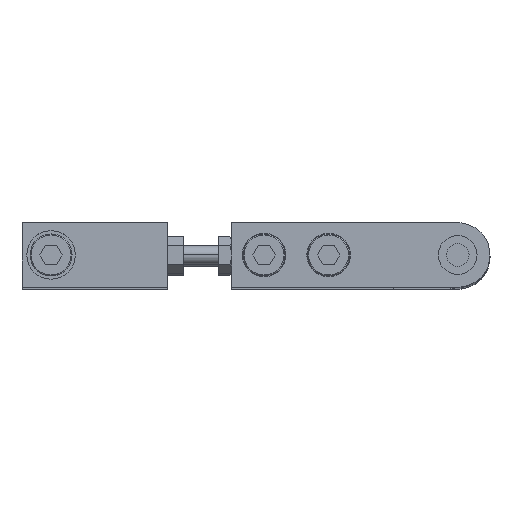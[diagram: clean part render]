
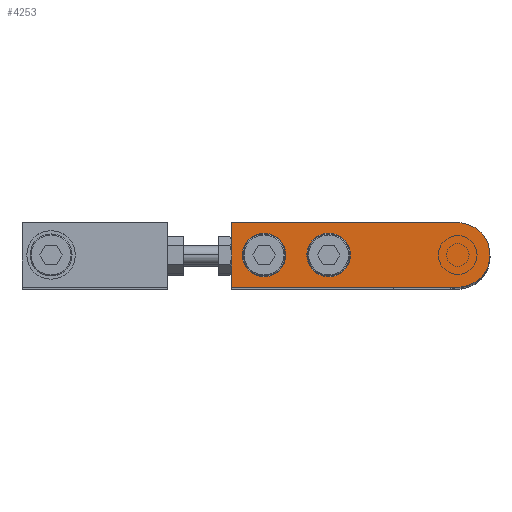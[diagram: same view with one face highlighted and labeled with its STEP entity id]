
A CAD part, top view. The second image highlights one B-rep face of the part: STEP entity #4253.
In plain terms, the highlighted planar face has unit normal (0, 0, 1) as drawn and (0, 0, -1) by its records, which use the part's own axes.
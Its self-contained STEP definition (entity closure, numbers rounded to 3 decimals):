
#34 = DIRECTION ( 'NONE',  ( 0., 0., 1. ) ) ;
#170 = DIRECTION ( 'NONE',  ( 1., 0., 0. ) ) ;
#330 = VECTOR ( 'NONE', #170, 1000. ) ;
#361 = DIRECTION ( 'NONE',  ( 0., 0., -1. ) ) ;
#541 = VECTOR ( 'NONE', #5131, 1000. ) ;
#567 = VERTEX_POINT ( 'NONE', #7004 ) ;
#640 = DIRECTION ( 'NONE',  ( 0., 0., 1. ) ) ;
#722 = EDGE_LOOP ( 'NONE', ( #6943, #4943 ) ) ;
#813 = ORIENTED_EDGE ( 'NONE', *, *, #3342, .F. ) ;
#832 = CARTESIAN_POINT ( 'NONE',  ( 40., 0., -5. ) ) ;
#990 = CARTESIAN_POINT ( 'NONE',  ( 0., -10., -5. ) ) ;
#1029 = CARTESIAN_POINT ( 'NONE',  ( 70., 10., -5. ) ) ;
#1130 = CIRCLE ( 'NONE', #6906, 10. ) ;
#1208 = VERTEX_POINT ( 'NONE', #5069 ) ;
#1219 = FACE_BOUND ( 'NONE', #722, .T. ) ;
#1282 = DIRECTION ( 'NONE',  ( -1., 0., 0. ) ) ;
#1334 = DIRECTION ( 'NONE',  ( -1., 0., 0. ) ) ;
#1505 = CARTESIAN_POINT ( 'NONE',  ( 60., 0., -5. ) ) ;
#1584 = PLANE ( 'NONE',  #7132 ) ;
#1634 = EDGE_CURVE ( 'NONE', #7013, #1208, #1825, .T. ) ;
#1638 = DIRECTION ( 'NONE',  ( 0., 0., 1. ) ) ;
#1663 = CARTESIAN_POINT ( 'NONE',  ( 0., 0., -5. ) ) ;
#1789 = EDGE_LOOP ( 'NONE', ( #5278, #5631 ) ) ;
#1794 = CARTESIAN_POINT ( 'NONE',  ( 0., 10., -5. ) ) ;
#1825 = CIRCLE ( 'NONE', #4776, 10. ) ;
#1906 = EDGE_CURVE ( 'NONE', #2358, #5867, #3691, .T. ) ;
#2057 = VECTOR ( 'NONE', #2916, 1000. ) ;
#2326 = CARTESIAN_POINT ( 'NONE',  ( 46.75, 0., -5. ) ) ;
#2358 = VERTEX_POINT ( 'NONE', #5509 ) ;
#2914 = CARTESIAN_POINT ( 'NONE',  ( 66.75, 0., -5. ) ) ;
#2916 = DIRECTION ( 'NONE',  ( -1., 0., 0. ) ) ;
#2994 = EDGE_CURVE ( 'NONE', #4558, #6716, #6827, .T. ) ;
#3070 = CARTESIAN_POINT ( 'NONE',  ( 0., -10., -5. ) ) ;
#3103 = DIRECTION ( 'NONE',  ( -1., 0., 0. ) ) ;
#3112 = DIRECTION ( 'NONE',  ( 0., 0., -1. ) ) ;
#3266 = AXIS2_PLACEMENT_3D ( 'NONE', #832, #3112, #1282 ) ;
#3342 = EDGE_CURVE ( 'NONE', #5867, #7013, #5733, .T. ) ;
#3411 = DIRECTION ( 'NONE',  ( 0., 0., -1. ) ) ;
#3512 = CARTESIAN_POINT ( 'NONE',  ( 0., 0., -5. ) ) ;
#3548 = DIRECTION ( 'NONE',  ( 1., 0., 0. ) ) ;
#3575 = CIRCLE ( 'NONE', #4566, 6.75 ) ;
#3654 = CARTESIAN_POINT ( 'NONE',  ( 53.25, 0., -5. ) ) ;
#3691 = LINE ( 'NONE', #1029, #541 ) ;
#3705 = ORIENTED_EDGE ( 'NONE', *, *, #4419, .F. ) ;
#3880 = CARTESIAN_POINT ( 'NONE',  ( 0., 10., -5. ) ) ;
#3934 = FACE_BOUND ( 'NONE', #1789, .T. ) ;
#4097 = DIRECTION ( 'NONE',  ( 1., 0., 0. ) ) ;
#4119 = LINE ( 'NONE', #3070, #330 ) ;
#4253 = ADVANCED_FACE ( 'NONE', ( #3934, #1219, #6168 ), #1584, .F. ) ;
#4419 = EDGE_CURVE ( 'NONE', #1208, #6313, #1130, .T. ) ;
#4490 = VERTEX_POINT ( 'NONE', #2326 ) ;
#4507 = CIRCLE ( 'NONE', #3266, 6.75 ) ;
#4558 = VERTEX_POINT ( 'NONE', #3654 ) ;
#4566 = AXIS2_PLACEMENT_3D ( 'NONE', #1505, #361, #5517 ) ;
#4732 = AXIS2_PLACEMENT_3D ( 'NONE', #6018, #4871, #3103 ) ;
#4775 = AXIS2_PLACEMENT_3D ( 'NONE', #6842, #3411, #1334 ) ;
#4776 = AXIS2_PLACEMENT_3D ( 'NONE', #5310, #640, #3548 ) ;
#4871 = DIRECTION ( 'NONE',  ( 0., 0., -1. ) ) ;
#4943 = ORIENTED_EDGE ( 'NONE', *, *, #5359, .F. ) ;
#5069 = CARTESIAN_POINT ( 'NONE',  ( -10., 0., -5. ) ) ;
#5131 = DIRECTION ( 'NONE',  ( 0., 1., 0. ) ) ;
#5278 = ORIENTED_EDGE ( 'NONE', *, *, #2994, .F. ) ;
#5310 = CARTESIAN_POINT ( 'NONE',  ( 0., 0., -5. ) ) ;
#5359 = EDGE_CURVE ( 'NONE', #4490, #567, #4507, .T. ) ;
#5509 = CARTESIAN_POINT ( 'NONE',  ( 70., -10., -5. ) ) ;
#5517 = DIRECTION ( 'NONE',  ( -1., 0., 0. ) ) ;
#5631 = ORIENTED_EDGE ( 'NONE', *, *, #6974, .F. ) ;
#5733 = LINE ( 'NONE', #1794, #2057 ) ;
#5842 = EDGE_CURVE ( 'NONE', #6313, #2358, #4119, .T. ) ;
#5867 = VERTEX_POINT ( 'NONE', #5966 ) ;
#5966 = CARTESIAN_POINT ( 'NONE',  ( 70., 10., -5. ) ) ;
#6018 = CARTESIAN_POINT ( 'NONE',  ( 40., 0., -5. ) ) ;
#6168 = FACE_OUTER_BOUND ( 'NONE', #7157, .T. ) ;
#6201 = EDGE_CURVE ( 'NONE', #567, #4490, #6367, .T. ) ;
#6246 = DIRECTION ( 'NONE',  ( 1., 0., 0. ) ) ;
#6313 = VERTEX_POINT ( 'NONE', #990 ) ;
#6367 = CIRCLE ( 'NONE', #4732, 6.75 ) ;
#6383 = ORIENTED_EDGE ( 'NONE', *, *, #1634, .F. ) ;
#6430 = ORIENTED_EDGE ( 'NONE', *, *, #1906, .F. ) ;
#6716 = VERTEX_POINT ( 'NONE', #2914 ) ;
#6827 = CIRCLE ( 'NONE', #4775, 6.75 ) ;
#6842 = CARTESIAN_POINT ( 'NONE',  ( 60., 0., -5. ) ) ;
#6906 = AXIS2_PLACEMENT_3D ( 'NONE', #3512, #34, #4097 ) ;
#6943 = ORIENTED_EDGE ( 'NONE', *, *, #6201, .F. ) ;
#6974 = EDGE_CURVE ( 'NONE', #6716, #4558, #3575, .T. ) ;
#7004 = CARTESIAN_POINT ( 'NONE',  ( 33.25, 0., -5. ) ) ;
#7013 = VERTEX_POINT ( 'NONE', #3880 ) ;
#7132 = AXIS2_PLACEMENT_3D ( 'NONE', #1663, #1638, #6246 ) ;
#7157 = EDGE_LOOP ( 'NONE', ( #6383, #813, #6430, #7338, #3705 ) ) ;
#7338 = ORIENTED_EDGE ( 'NONE', *, *, #5842, .F. ) ;
